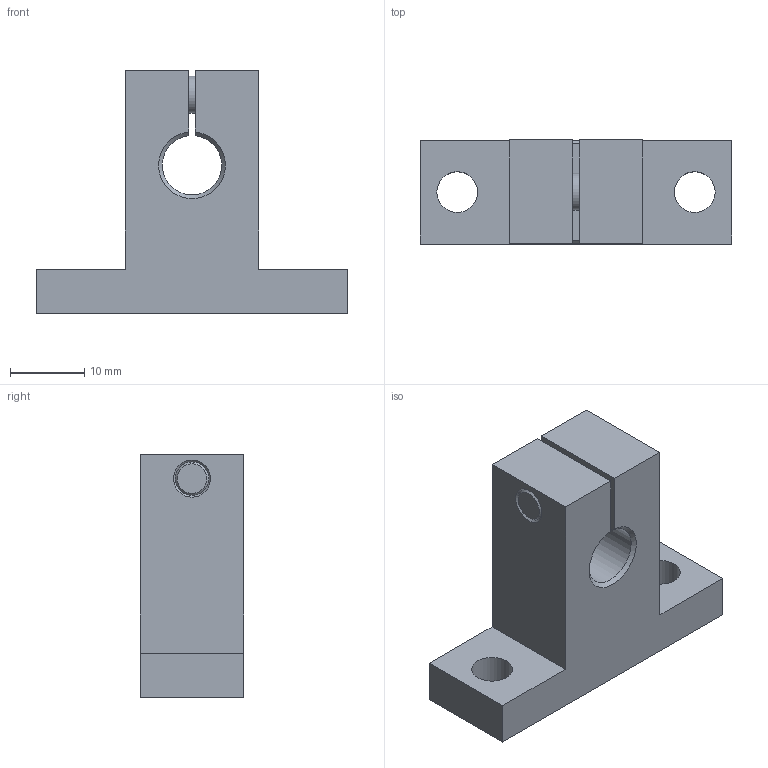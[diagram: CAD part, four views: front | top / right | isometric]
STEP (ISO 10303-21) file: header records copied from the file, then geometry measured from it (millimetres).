
FILE_DESCRIPTION( ( 'Unknown' ), '1' );
FILE_NAME( 'D:/累诀/己绕皋墨飘肺葱胶/11-04-06_档搁累己/04_箕橇飘/SK/SK 08.stp', 'Unknown', ( 'Unknown' ), ( 'Unknown' ), 'PSStep 11.0', 'Unknown', ' ' );
FILE_SCHEMA( ( 'AUTOMOTIVE_DESIGN { 1 0 10303 214 1 1 1 1 }' ) );
Length unit declared in the file: millimetre
Products named in the file (1): 1
Bounding box: 42 x 14 x 32.8 mm (x, y, z)
Volume: 9188 mm3; surface area: 4189.9 mm2
Topology: 1 solids, 1 shells, 36 faces, 90 edges, 60 vertices
Faces by surface type: plane 23, cylinder 7, cone 5, torus 1
Full cylindrical faces by diameter (mm): 2.08 x1, 5 x1, 5.5 x3, 5.61 x1
Entity records: 1312 total; most frequent: CARTESIAN_POINT 182, DIRECTION 166, ORIENTED_EDGE 152, EDGE_CURVE 76, AXIS2_PLACEMENT_3D 57, VERTEX_POINT 57, EDGE_LOOP 56, LINE 52
